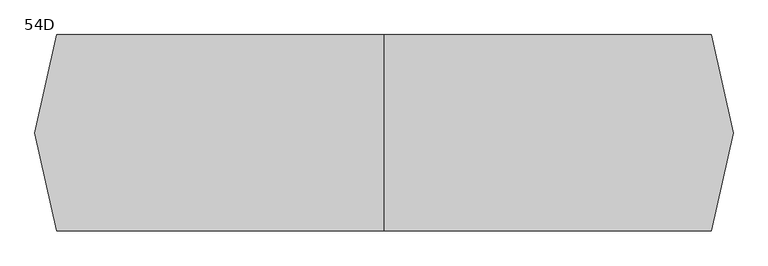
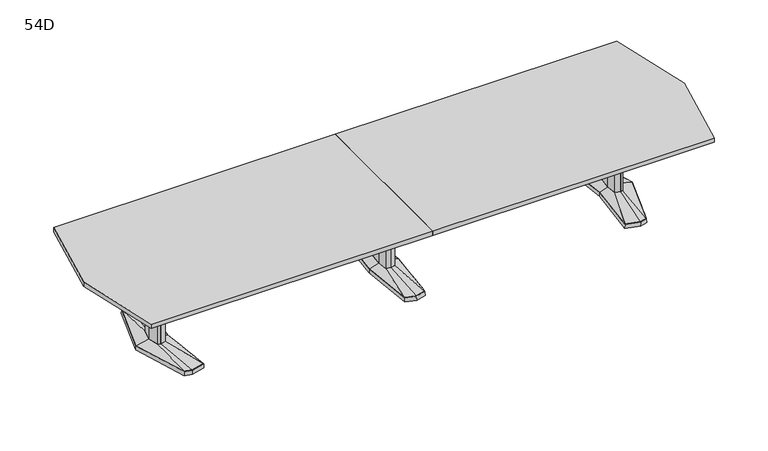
"""IFC4 building model written with IfcOpenShell, lengths in millimetres: furniture geometry, Coalesse_AM_Table_Conference_ETable2_Faceted_16ft_AluminiumBase : 54D."""

from ifc_helpers import new_model, si_unit, frame, origin, place, context, project, spatial, polyline, outline, extrude, faceted_brep, source, transform, mapped, element, save
from ifc_brep_helpers import plane_surface, spline_surface, advanced_brep


def furniture_54d_1e4cc773(model_context):
    return source(origin(), model_context, "Body", "SolidModel", [
        faceted_brep([(-81.2333791, -433.8053819, 38.1), (0.0, -455.556576, 38.1), (81.2333791, -433.8053819, 38.1), (119.0564774, 0.0, 38.1), (81.2333791, 433.8053819, 38.1), (0.0, 455.556576, 38.1), (-81.2333791, 433.8053819, 38.1), (-119.0564774, 0.0, 38.1), (-82.7182795, -435.0512063, 3.175), (-120.65, 0.0, 3.175), (-82.7182795, 435.0512063, 3.175), (0.0, 457.2, 3.175), (82.7182795, 435.0512063, 3.175), (120.65, 0.0, 3.175), (82.7182795, -435.0512063, 3.175), (0.0, -457.2, 3.175), (0.0, 429.2617927, 3.175), (-77.9676806, 408.3850278, 3.175), (-74.7019821, 382.9646737, 3.175), (0.0, 402.9670094, 3.175), (74.7019821, 382.9646737, 3.175), (77.9676806, 408.3850278, 3.175), (0.0, -429.2617927, 3.175), (77.9676806, -408.3850278, 3.175), (74.7019821, -382.9646737, 3.175), (0.0, -402.9670094, 3.175), (-74.7019821, -382.9646737, 3.175), (-77.9676806, -408.3850278, 3.175), (-71.8574262, 114.6326257, 3.175), (-82.5426076, 0.0, 3.175), (-71.8574262, -114.6326257, 3.175), (0.0, -133.8761372, 3.175), (71.8574262, -114.6326257, 3.175), (82.5426076, 0.0, 3.175), (71.8574262, 114.6326257, 3.175), (0.0, 133.8761372, 3.175), (0.0, 429.2617927, 0.0), (77.9676806, 408.3850278, 0.0), (74.7019821, 382.9646737, 0.0), (0.0, 402.9670094, 0.0), (-74.7019821, 382.9646737, 0.0), (-77.9676806, 408.3850278, 0.0), (0.0, -429.2617927, 0.0), (-77.9676806, -408.3850278, 0.0), (-74.7019821, -382.9646737, 0.0), (0.0, -402.9670094, 0.0), (74.7019821, -382.9646737, 0.0), (77.9676806, -408.3850278, 0.0), (-71.8574262, 114.6326257, 0.0), (0.0, 133.8761372, 0.0), (71.8574262, 114.6326257, 0.0), (82.5426076, 0.0, 0.0), (71.8574262, -114.6326257, 0.0), (0.0, -133.8761372, 0.0), (-71.8574262, -114.6326257, 0.0), (-82.5426076, 0.0, 0.0)], [[[0, 1, 2, 3, 4, 5, 6, 7]], [[8, 9, 10, 11, 12, 13, 14, 15], [16, 17, 18, 19, 20, 21], [22, 23, 24, 25, 26, 27], [28, 29, 30, 31, 32, 33, 34, 35]], [[1, 0, 8, 15]], [[2, 1, 15, 14]], [[3, 2, 14, 13]], [[4, 3, 13, 12]], [[5, 4, 12, 11]], [[6, 5, 11, 10]], [[7, 6, 10, 9]], [[0, 7, 9, 8]], [[36, 37, 38, 39, 40, 41]], [[42, 43, 44, 45, 46, 47]], [[48, 49, 50, 51, 52, 53, 54, 55]], [[36, 41, 17, 16]], [[41, 40, 18, 17]], [[40, 39, 19, 18]], [[39, 38, 20, 19]], [[38, 37, 21, 20]], [[37, 36, 16, 21]], [[42, 47, 23, 22]], [[47, 46, 24, 23]], [[46, 45, 25, 24]], [[45, 44, 26, 25]], [[44, 43, 27, 26]], [[43, 42, 22, 27]], [[48, 55, 29, 28]], [[55, 54, 30, 29]], [[54, 53, 31, 30]], [[53, 52, 32, 31]], [[52, 51, 33, 32]], [[51, 50, 34, 33]], [[50, 49, 35, 34]], [[49, 48, 28, 35]]]),
        faceted_brep([(-36.3832834, 84.6900825, 698.5), (-44.2774487, 0.0, 698.5), (-36.3832834, -84.6900825, 698.5), (0.0, -94.4335728, 698.5), (36.3832834, -84.6900825, 698.5), (44.2774487, 0.0, 698.5), (36.3832834, 84.6900825, 698.5), (0.0, 94.4335728, 698.5), (-36.3832834, 84.6900825, 63.5), (0.0, 94.4335728, 63.5), (36.3832834, 84.6900825, 63.5), (44.2774487, 0.0, 63.5), (36.3832834, -84.6900825, 63.5), (0.0, -94.4335728, 63.5), (-36.3832834, -84.6900825, 63.5), (-44.2774487, 0.0, 63.5)], [[[0, 1, 2, 3, 4, 5, 6, 7]], [[8, 9, 10, 11, 12, 13, 14, 15]], [[1, 0, 8, 15]], [[2, 1, 15, 14]], [[3, 2, 14, 13]], [[4, 3, 13, 12]], [[5, 4, 12, 11]], [[6, 5, 11, 10]], [[7, 6, 10, 9]], [[0, 7, 9, 8]]]),
        advanced_brep(
        [(-36.3832834, 84.6900825, 63.5), (-44.2774487, 0.0, 63.5), (-36.3832834, -84.6900825, 63.5), (0.0, -94.4335728, 63.5), (36.3832834, -84.6900825, 63.5), (44.2774487, 0.0, 63.5), (36.3832834, 84.6900825, 63.5), (0.0, 94.4335728, 63.5), (-81.2333791, 433.8053819, 38.1), (0.0, 455.556576, 38.1), (81.2333791, 433.8053819, 38.1), (119.0564774, 0.0, 38.1), (81.2333791, -433.8053819, 38.1), (0.0, -455.556576, 38.1), (-81.2333791, -433.8053819, 38.1), (-119.0564774, 0.0, 38.1)],
        [
            (0, 1),
            (1, 2),
            (2, 3),
            (3, 4),
            (4, 5),
            (5, 6),
            (6, 7),
            (7, 0),
            (8, 9),
            (9, 10),
            (10, 11),
            (11, 12),
            (12, 13),
            (13, 14),
            (14, 15),
            (15, 8),
            (15, 1),
            (0, 8),
            (14, 2),
            (13, 3),
            (12, 4),
            (11, 5),
            (10, 6),
            (9, 7),
        ],
        [
            plane_surface(frame((0.0, 0.0, 63.5), z_axis=(0.0, 0.0, 1.0000000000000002), x_axis=(-0.9659615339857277, -0.25868574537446, 0.0))),
            plane_surface(frame((0.0, 0.0, 38.1), z_axis=(0.0, 0.0, -1.0000000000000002), x_axis=(-0.9659615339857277, -0.25868574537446, 0.0))),
            spline_surface(1, 1, [[(-81.2333791, 433.8053819, 38.1), (-36.3832834, 84.6900825, 63.5)], [(-119.0564774, 0.0, 38.1), (-44.2774487, 0.0, 63.5)]], [2, 2], [2, 2], [0.0, 1.0], [0.0, 1.0]),
            spline_surface(1, 1, [[(-119.0564774, 0.0, 38.1), (-44.2774487, 0.0, 63.5)], [(-81.2333791, -433.8053819, 38.1), (-36.3832834, -84.6900825, 63.5)]], [2, 2], [2, 2], [0.0, 1.0], [0.0, 1.0]),
            spline_surface(1, 1, [[(-81.2333791, -433.8053819, 38.1), (-36.3832834, -84.6900825, 63.5)], [(0.0, -455.556576, 38.1), (0.0, -94.4335728, 63.5)]], [2, 2], [2, 2], [0.0, 1.0], [0.0, 1.0]),
            spline_surface(1, 1, [[(0.0, -455.556576, 38.1), (0.0, -94.4335728, 63.5)], [(81.2333791, -433.8053819, 38.1), (36.3832834, -84.6900825, 63.5)]], [2, 2], [2, 2], [0.0, 1.0], [0.0, 1.0]),
            spline_surface(1, 1, [[(81.2333791, -433.8053819, 38.1), (36.3832834, -84.6900825, 63.5)], [(119.0564774, 0.0, 38.1), (44.2774487, 0.0, 63.5)]], [2, 2], [2, 2], [0.0, 1.0], [0.0, 1.0]),
            spline_surface(1, 1, [[(119.0564774, 0.0, 38.1), (44.2774487, 0.0, 63.5)], [(81.2333791, 433.8053819, 38.1), (36.3832834, 84.6900825, 63.5)]], [2, 2], [2, 2], [0.0, 1.0], [0.0, 1.0]),
            spline_surface(1, 1, [[(81.2333791, 433.8053819, 38.1), (36.3832834, 84.6900825, 63.5)], [(0.0, 455.556576, 38.1), (0.0, 94.4335728, 63.5)]], [2, 2], [2, 2], [0.0, 1.0], [0.0, 1.0]),
            spline_surface(1, 1, [[(0.0, 455.556576, 38.1), (0.0, 94.4335728, 63.5)], [(-81.2333791, 433.8053819, 38.1), (-36.3832834, 84.6900825, 63.5)]], [2, 2], [2, 2], [0.0, 1.0], [0.0, 1.0]),
        ],
        [
            (0, [[1, 2, 3, 4, 5, 6, 7, 8]]),
            (1, [[9, 10, 11, 12, 13, 14, 15, 16]]),
            (2, [[-16, 17, -1, 18]]),
            (3, [[-15, 19, -2, -17]]),
            (4, [[-14, 20, -3, -19]]),
            (5, [[-13, 21, -4, -20]]),
            (6, [[-12, 22, -5, -21]]),
            (7, [[-11, 23, -6, -22]]),
            (8, [[-10, 24, -7, -23]]),
            (9, [[-9, -18, -8, -24]]),
        ],
    ),
        faceted_brep([(1820.2306835, 455.5848221, 38.1), (1710.6531277, 426.2263816, 38.1), (1751.8163717, 0.0, 38.1), (1710.6531277, -426.2263816, 38.1), (1820.2306835, -455.5848221, 38.1), (1876.3570396, -440.5478297, 38.1), (2013.6684269, 0.0, 38.1), (1876.3570396, 440.5478297, 38.1), (1820.2306754, 457.2283104, 3.175), (1877.6124472, 441.8549756, 3.175), (2015.33125, 0.0, 3.175), (1877.6124472, -441.8549756, 3.175), (1820.2306754, -457.2283104, 3.175), (1708.94375, -427.4118891, 3.175), (1750.2214856, 0.0, 3.175), (1708.94375, 427.4118891, 3.175), (1823.820115, 428.3273875, 3.175), (1718.7718228, 402.1057253, 3.175), (1726.890518, 377.985069, 3.175), (1827.4095466, 401.0699529, 3.175), (1877.9691725, 387.524361, 3.175), (1877.1631061, 414.0360954, 3.175), (1823.820115, -428.3273875, 3.175), (1877.1631061, -414.0360954, 3.175), (1877.9691725, -387.524361, 3.175), (1827.4095466, -401.0699529, 3.175), (1726.890518, -377.985069, 3.175), (1718.7718228, -402.1057253, 3.175), (1950.4153621, 0.0, 3.175), (1918.1459611, 120.4193755, 3.175), (1869.4987222, 133.471665, 3.175), (1789.6180526, 119.4176561, 3.175), (1778.4868466, 0.0, 3.175), (1789.6180526, -119.4176561, 3.175), (1869.4987222, -133.471665, 3.175), (1918.1459611, -120.4193755, 3.175), (1823.820115, 428.3273875, 0.0), (1877.1631061, 414.0360954, 0.0), (1877.9691725, 387.524361, 0.0), (1827.4095466, 401.0699529, 0.0), (1726.890518, 377.985069, 0.0), (1718.7718228, 402.1057253, 0.0), (1823.820115, -428.3273875, 0.0), (1718.7718228, -402.1057253, 0.0), (1726.890518, -377.985069, 0.0), (1827.4095466, -401.0699529, 0.0), (1877.9691725, -387.524361, 0.0), (1877.1631061, -414.0360954, 0.0), (1950.4153621, 0.0, 0.0), (1918.1459611, -120.4193755, 0.0), (1869.4987222, -133.471665, 0.0), (1789.6180526, -119.4176561, 0.0), (1778.4868466, 0.0, 0.0), (1789.6180526, 119.4176561, 0.0), (1869.4987222, 133.471665, 0.0), (1918.1459611, 120.4193755, 0.0)], [[[0, 1, 2, 3, 4, 5, 6, 7]], [[8, 9, 10, 11, 12, 13, 14, 15], [16, 17, 18, 19, 20, 21], [22, 23, 24, 25, 26, 27], [28, 29, 30, 31, 32, 33, 34, 35]], [[7, 9, 8, 0]], [[6, 10, 9, 7]], [[5, 11, 10, 6]], [[4, 12, 11, 5]], [[3, 13, 12, 4]], [[2, 14, 13, 3]], [[1, 15, 14, 2]], [[0, 8, 15, 1]], [[36, 37, 38, 39, 40, 41]], [[42, 43, 44, 45, 46, 47]], [[48, 49, 50, 51, 52, 53, 54, 55]], [[36, 16, 21, 37]], [[37, 21, 20, 38]], [[38, 20, 19, 39]], [[39, 19, 18, 40]], [[40, 18, 17, 41]], [[41, 17, 16, 36]], [[42, 22, 27, 43]], [[43, 27, 26, 44]], [[44, 26, 25, 45]], [[45, 25, 24, 46]], [[46, 24, 23, 47]], [[47, 23, 22, 42]], [[48, 28, 35, 49]], [[49, 35, 34, 50]], [[50, 34, 33, 51]], [[51, 33, 32, 52]], [[52, 32, 31, 53]], [[53, 31, 30, 54]], [[54, 30, 29, 55]], [[55, 29, 28, 48]]]),
        faceted_brep([(1910.9710836, 0.0, 698.5), (1887.0358546, 89.3188359, 698.5), (1870.1824984, 93.8406728, 698.5), (1867.7826511, 94.4845635, 698.5), (1824.855146, 86.9320037, 698.5), (1816.7520056, 0.0, 698.5), (1824.855146, -86.9320037, 698.5), (1867.7826511, -94.4845635, 698.5), (1870.1824984, -93.8406728, 698.5), (1887.0358546, -89.3188359, 698.5), (1910.9710836, 0.0, 63.5), (1887.0358546, -89.3188359, 63.5), (1870.1824984, -93.8406728, 63.5), (1867.7826511, -94.4845635, 63.5), (1824.855146, -86.9320037, 63.5), (1816.7520056, 0.0, 63.5), (1824.855146, 86.9320037, 63.5), (1867.7826511, 94.4845635, 63.5), (1870.1824984, 93.8406728, 63.5), (1887.0358546, 89.3188359, 63.5)], [[[0, 1, 2, 3, 4, 5, 6, 7, 8, 9]], [[10, 11, 12, 13, 14, 15, 16, 17, 18, 19]], [[9, 11, 10, 0]], [[8, 12, 11, 9]], [[7, 13, 12, 8]], [[6, 14, 13, 7]], [[5, 15, 14, 6]], [[4, 16, 15, 5]], [[3, 17, 16, 4]], [[2, 18, 17, 3]], [[1, 19, 18, 2]], [[0, 10, 19, 1]]]),
        advanced_brep(
        [(1867.7826511, 94.4845635, 63.5), (1824.855146, 86.9320037, 63.5), (1816.7520056, 0.0, 63.5), (1824.855146, -86.9320037, 63.5), (1867.7826511, -94.4845635, 63.5), (1887.0358546, -89.3188359, 63.5), (1910.9710836, 0.0, 63.5), (1887.0358546, 89.3188359, 63.5), (1820.2306835, 455.5848221, 38.1), (1876.3570396, 440.5478297, 38.1), (2013.6684269, 0.0, 38.1), (1876.3570396, -440.5478297, 38.1), (1820.2306835, -455.5848221, 38.1), (1710.6531277, -426.2263816, 38.1), (1751.8163717, 0.0, 38.1), (1710.6531277, 426.2263816, 38.1)],
        [
            (0, 1),
            (1, 2),
            (2, 3),
            (3, 4),
            (4, 5),
            (5, 6),
            (6, 7),
            (7, 0),
            (8, 9),
            (9, 10),
            (10, 11),
            (11, 12),
            (12, 13),
            (13, 14),
            (14, 15),
            (15, 8),
            (8, 0),
            (7, 9),
            (6, 10),
            (5, 11),
            (4, 12),
            (3, 13),
            (2, 14),
            (1, 15),
        ],
        [
            plane_surface(frame((1860.8837991, 0.0, 63.5), z_axis=(0.0, 0.0, 1.0), x_axis=(-0.25884244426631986, -0.9659195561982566, 0.0))),
            plane_surface(frame((1822.4958125, 0.0, 38.1), z_axis=(0.0, 0.0, -1.0), x_axis=(-0.25884244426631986, -0.9659195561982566, 0.0))),
            spline_surface(1, 1, [[(1820.2306835, 455.5848221, 38.1), (1876.3570396, 440.5478297, 38.1)], [(1867.7826511, 94.4845635, 63.5), (1887.0358546, 89.3188359, 63.5)]], [2, 2], [2, 2], [0.0, 1.0], [0.0, 1.0]),
            spline_surface(1, 1, [[(1876.3570396, 440.5478297, 38.1), (2013.6684269, 0.0, 38.1)], [(1887.0358546, 89.3188359, 63.5), (1910.9710836, 0.0, 63.5)]], [2, 2], [2, 2], [0.0, 1.0], [0.0, 1.0]),
            spline_surface(1, 1, [[(2013.6684269, 0.0, 38.1), (1876.3570396, -440.5478297, 38.1)], [(1910.9710836, 0.0, 63.5), (1887.0358546, -89.3188359, 63.5)]], [2, 2], [2, 2], [0.0, 1.0], [0.0, 1.0]),
            spline_surface(1, 1, [[(1876.3570396, -440.5478297, 38.1), (1820.2306835, -455.5848221, 38.1)], [(1887.0358546, -89.3188359, 63.5), (1867.7826511, -94.4845635, 63.5)]], [2, 2], [2, 2], [0.0, 1.0], [0.0, 1.0]),
            spline_surface(1, 1, [[(1820.2306835, -455.5848221, 38.1), (1710.6531277, -426.2263816, 38.1)], [(1867.7826511, -94.4845635, 63.5), (1824.855146, -86.9320037, 63.5)]], [2, 2], [2, 2], [0.0, 1.0], [0.0, 1.0]),
            spline_surface(1, 1, [[(1710.6531277, -426.2263816, 38.1), (1751.8163717, 0.0, 38.1)], [(1824.855146, -86.9320037, 63.5), (1816.7520056, 0.0, 63.5)]], [2, 2], [2, 2], [0.0, 1.0], [0.0, 1.0]),
            spline_surface(1, 1, [[(1751.8163717, 0.0, 38.1), (1710.6531277, 426.2263816, 38.1)], [(1816.7520056, 0.0, 63.5), (1824.855146, 86.9320037, 63.5)]], [2, 2], [2, 2], [0.0, 1.0], [0.0, 1.0]),
            spline_surface(1, 1, [[(1710.6531277, 426.2263816, 38.1), (1820.2306835, 455.5848221, 38.1)], [(1824.855146, 86.9320037, 63.5), (1867.7826511, 94.4845635, 63.5)]], [2, 2], [2, 2], [0.0, 1.0], [0.0, 1.0]),
        ],
        [
            (0, [[1, 2, 3, 4, 5, 6, 7, 8]]),
            (1, [[9, 10, 11, 12, 13, 14, 15, 16]]),
            (2, [[17, -8, 18, -9]]),
            (3, [[-18, -7, 19, -10]]),
            (4, [[-19, -6, 20, -11]]),
            (5, [[-20, -5, 21, -12]]),
            (6, [[-21, -4, 22, -13]]),
            (7, [[-22, -3, 23, -14]]),
            (8, [[-23, -2, 24, -15]]),
            (9, [[-24, -1, -17, -16]]),
        ],
    ),
        faceted_brep([(-1820.2306835, 455.5848221, 38.1), (-1876.3570396, 440.5478297, 38.1), (-2013.6684269, 0.0, 38.1), (-1876.3570396, -440.5478297, 38.1), (-1820.2306835, -455.5848221, 38.1), (-1710.6531277, -426.2263816, 38.1), (-1751.8163717, 0.0, 38.1), (-1710.6531277, 426.2263816, 38.1), (-1820.2306754, 457.2283104, 3.175), (-1708.94375, 427.4118891, 3.175), (-1750.2214856, 0.0, 3.175), (-1708.94375, -427.4118891, 3.175), (-1820.2306754, -457.2283104, 3.175), (-1877.6124472, -441.8549756, 3.175), (-2015.33125, 0.0, 3.175), (-1877.6124472, 441.8549756, 3.175), (-1823.820115, 428.3273875, 3.175), (-1877.1631061, 414.0360954, 3.175), (-1877.9691725, 387.524361, 3.175), (-1827.4095466, 401.0699529, 3.175), (-1726.890518, 377.985069, 3.175), (-1718.7718228, 402.1057253, 3.175), (-1823.820115, -428.3273875, 3.175), (-1718.7718228, -402.1057253, 3.175), (-1726.890518, -377.985069, 3.175), (-1827.4095466, -401.0699529, 3.175), (-1877.9691725, -387.524361, 3.175), (-1877.1631061, -414.0360954, 3.175), (-1950.4153621, 0.0, 3.175), (-1918.1459611, -120.4193755, 3.175), (-1869.4987222, -133.471665, 3.175), (-1789.6180526, -119.4176561, 3.175), (-1778.4868466, 0.0, 3.175), (-1789.6180526, 119.4176561, 3.175), (-1869.4987222, 133.471665, 3.175), (-1918.1459611, 120.4193755, 3.175), (-1823.820115, 428.3273875, 0.0), (-1718.7718228, 402.1057253, 0.0), (-1726.890518, 377.985069, 0.0), (-1827.4095466, 401.0699529, 0.0), (-1877.9691725, 387.524361, 0.0), (-1877.1631061, 414.0360954, 0.0), (-1823.820115, -428.3273875, 0.0), (-1877.1631061, -414.0360954, 0.0), (-1877.9691725, -387.524361, 0.0), (-1827.4095466, -401.0699529, 0.0), (-1726.890518, -377.985069, 0.0), (-1718.7718228, -402.1057253, 0.0), (-1950.4153621, 0.0, 0.0), (-1918.1459611, 120.4193755, 0.0), (-1869.4987222, 133.471665, 0.0), (-1789.6180526, 119.4176561, 0.0), (-1778.4868466, 0.0, 0.0), (-1789.6180526, -119.4176561, 0.0), (-1869.4987222, -133.471665, 0.0), (-1918.1459611, -120.4193755, 0.0)], [[[0, 1, 2, 3, 4, 5, 6, 7]], [[8, 9, 10, 11, 12, 13, 14, 15], [16, 17, 18, 19, 20, 21], [22, 23, 24, 25, 26, 27], [28, 29, 30, 31, 32, 33, 34, 35]], [[1, 0, 8, 15]], [[2, 1, 15, 14]], [[3, 2, 14, 13]], [[4, 3, 13, 12]], [[5, 4, 12, 11]], [[6, 5, 11, 10]], [[7, 6, 10, 9]], [[0, 7, 9, 8]], [[36, 37, 38, 39, 40, 41]], [[42, 43, 44, 45, 46, 47]], [[48, 49, 50, 51, 52, 53, 54, 55]], [[36, 41, 17, 16]], [[41, 40, 18, 17]], [[40, 39, 19, 18]], [[39, 38, 20, 19]], [[38, 37, 21, 20]], [[37, 36, 16, 21]], [[42, 47, 23, 22]], [[47, 46, 24, 23]], [[46, 45, 25, 24]], [[45, 44, 26, 25]], [[44, 43, 27, 26]], [[43, 42, 22, 27]], [[48, 55, 29, 28]], [[55, 54, 30, 29]], [[54, 53, 31, 30]], [[53, 52, 32, 31]], [[52, 51, 33, 32]], [[51, 50, 34, 33]], [[50, 49, 35, 34]], [[49, 48, 28, 35]]]),
        faceted_brep([(-1910.9710836, 0.0, 698.5), (-1887.0358546, -89.3188359, 698.5), (-1870.1824984, -93.8406728, 698.5), (-1867.7826511, -94.4845635, 698.5), (-1824.855146, -86.9320037, 698.5), (-1816.7520056, 0.0, 698.5), (-1824.855146, 86.9320037, 698.5), (-1867.7826511, 94.4845635, 698.5), (-1870.1824984, 93.8406728, 698.5), (-1887.0358546, 89.3188359, 698.5), (-1910.9710836, 0.0, 63.5), (-1887.0358546, 89.3188359, 63.5), (-1870.1824984, 93.8406728, 63.5), (-1867.7826511, 94.4845635, 63.5), (-1824.855146, 86.9320037, 63.5), (-1816.7520056, 0.0, 63.5), (-1824.855146, -86.9320037, 63.5), (-1867.7826511, -94.4845635, 63.5), (-1870.1824984, -93.8406728, 63.5), (-1887.0358546, -89.3188359, 63.5)], [[[0, 1, 2, 3, 4, 5, 6, 7, 8, 9]], [[10, 11, 12, 13, 14, 15, 16, 17, 18, 19]], [[1, 0, 10, 19]], [[2, 1, 19, 18]], [[3, 2, 18, 17]], [[4, 3, 17, 16]], [[5, 4, 16, 15]], [[6, 5, 15, 14]], [[7, 6, 14, 13]], [[8, 7, 13, 12]], [[9, 8, 12, 11]], [[0, 9, 11, 10]]]),
        advanced_brep(
        [(-1867.7826511, 94.4845635, 63.5), (-1887.0358546, 89.3188359, 63.5), (-1910.9710836, 0.0, 63.5), (-1887.0358546, -89.3188359, 63.5), (-1867.7826511, -94.4845635, 63.5), (-1824.855146, -86.9320037, 63.5), (-1816.7520056, 0.0, 63.5), (-1824.855146, 86.9320037, 63.5), (-1820.2306835, 455.5848221, 38.1), (-1710.6531277, 426.2263816, 38.1), (-1751.8163717, 0.0, 38.1), (-1710.6531277, -426.2263816, 38.1), (-1820.2306835, -455.5848221, 38.1), (-1876.3570396, -440.5478297, 38.1), (-2013.6684269, 0.0, 38.1), (-1876.3570396, 440.5478297, 38.1)],
        [
            (0, 1),
            (1, 2),
            (2, 3),
            (3, 4),
            (4, 5),
            (5, 6),
            (6, 7),
            (7, 0),
            (8, 9),
            (9, 10),
            (10, 11),
            (11, 12),
            (12, 13),
            (13, 14),
            (14, 15),
            (15, 8),
            (15, 1),
            (0, 8),
            (14, 2),
            (13, 3),
            (12, 4),
            (11, 5),
            (10, 6),
            (9, 7),
        ],
        [
            plane_surface(frame((-1860.8837991, 0.0, 63.5), z_axis=(0.0, 0.0, 1.0), x_axis=(0.25884244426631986, -0.9659195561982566, 0.0))),
            plane_surface(frame((-1822.4958125, 0.0, 38.1), z_axis=(0.0, 0.0, -1.0), x_axis=(0.25884244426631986, -0.9659195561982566, 0.0))),
            spline_surface(1, 1, [[(-1820.2306835, 455.5848221, 38.1), (-1867.7826511, 94.4845635, 63.5)], [(-1876.3570396, 440.5478297, 38.1), (-1887.0358546, 89.3188359, 63.5)]], [2, 2], [2, 2], [0.0, 1.0], [0.0, 1.0]),
            spline_surface(1, 1, [[(-1876.3570396, 440.5478297, 38.1), (-1887.0358546, 89.3188359, 63.5)], [(-2013.6684269, 0.0, 38.1), (-1910.9710836, 0.0, 63.5)]], [2, 2], [2, 2], [0.0, 1.0], [0.0, 1.0]),
            spline_surface(1, 1, [[(-2013.6684269, 0.0, 38.1), (-1910.9710836, 0.0, 63.5)], [(-1876.3570396, -440.5478297, 38.1), (-1887.0358546, -89.3188359, 63.5)]], [2, 2], [2, 2], [0.0, 1.0], [0.0, 1.0]),
            spline_surface(1, 1, [[(-1876.3570396, -440.5478297, 38.1), (-1887.0358546, -89.3188359, 63.5)], [(-1820.2306835, -455.5848221, 38.1), (-1867.7826511, -94.4845635, 63.5)]], [2, 2], [2, 2], [0.0, 1.0], [0.0, 1.0]),
            spline_surface(1, 1, [[(-1820.2306835, -455.5848221, 38.1), (-1867.7826511, -94.4845635, 63.5)], [(-1710.6531277, -426.2263816, 38.1), (-1824.855146, -86.9320037, 63.5)]], [2, 2], [2, 2], [0.0, 1.0], [0.0, 1.0]),
            spline_surface(1, 1, [[(-1710.6531277, -426.2263816, 38.1), (-1824.855146, -86.9320037, 63.5)], [(-1751.8163717, 0.0, 38.1), (-1816.7520056, 0.0, 63.5)]], [2, 2], [2, 2], [0.0, 1.0], [0.0, 1.0]),
            spline_surface(1, 1, [[(-1751.8163717, 0.0, 38.1), (-1816.7520056, 0.0, 63.5)], [(-1710.6531277, 426.2263816, 38.1), (-1824.855146, 86.9320037, 63.5)]], [2, 2], [2, 2], [0.0, 1.0], [0.0, 1.0]),
            spline_surface(1, 1, [[(-1710.6531277, 426.2263816, 38.1), (-1824.855146, 86.9320037, 63.5)], [(-1820.2306835, 455.5848221, 38.1), (-1867.7826511, 94.4845635, 63.5)]], [2, 2], [2, 2], [0.0, 1.0], [0.0, 1.0]),
        ],
        [
            (0, [[1, 2, 3, 4, 5, 6, 7, 8]]),
            (1, [[9, 10, 11, 12, 13, 14, 15, 16]]),
            (2, [[-16, 17, -1, 18]]),
            (3, [[-15, 19, -2, -17]]),
            (4, [[-14, 20, -3, -19]]),
            (5, [[-13, 21, -4, -20]]),
            (6, [[-12, 22, -5, -21]]),
            (7, [[-11, 23, -6, -22]]),
            (8, [[-10, 24, -7, -23]]),
            (9, [[-9, -18, -8, -24]]),
        ],
    ),
        extrude(outline(polyline([(96.8375, 698.5), (103.1875, 698.5), (103.1875, 476.25), (-103.1875, 476.25), (-103.1875, 698.5), (-96.8375, 698.5), (-96.8375, 482.6), (96.8375, 482.6), (96.8375, 698.5)])), frame((44.2774487, 0.0, 0.0), z_axis=(1.0, 0.0, 0.0), x_axis=(0.0, 1.0, 0.0)), (0.0, 0.0, 1.0), 1772.6163013),
        extrude(outline(polyline([(2286.3609518, 685.8), (2438.4, 0.0), (2286.3609518, -685.8), (0.0, -685.8), (0.0, 685.8), (2286.3609518, 685.8)])), frame((0.0, 0.0, 698.5), z_axis=(0.0, 0.0, 1.0), x_axis=(1.0, 0.0, 0.0)), (0.0, 0.0, 1.0), 38.1),
        extrude(outline(polyline([(0.0, 685.8), (0.0, -685.8), (-2286.3609518, -685.8), (-2438.4, 0.0), (-2286.3609518, 685.8), (0.0, 685.8)])), frame((0.0, 0.0, 698.5), z_axis=(0.0, 0.0, 1.0), x_axis=(1.0, 0.0, 0.0)), (0.0, 0.0, 1.0), 38.1),
        extrude(outline(polyline([(96.8375, 698.5), (103.1875, 698.5), (103.1875, 476.25), (-103.1875, 476.25), (-103.1875, 698.5), (-96.8375, 698.5), (-96.8375, 482.6), (96.8375, 482.6), (96.8375, 698.5)])), frame((-1816.89375, 0.0, 0.0), z_axis=(1.0, 0.0, 0.0), x_axis=(0.0, 1.0, 0.0)), (0.0, 0.0, 1.0), 1772.6163013),
    ])


if __name__ == "__main__":
    model = new_model("IFC4")
    model_context = context("Model", 3, world=origin())
    ifc_project = project(units=[si_unit("LENGTHUNIT", "METRE", prefix="MILLI")], contexts=[model_context])
    site = spatial("IfcSite", under=ifc_project)
    building = spatial("IfcBuilding", under=site)
    placement = place(None, origin())
    furniture_54d_shape = furniture_54d_1e4cc773(model_context)
    element("IfcFurniture", 1, ObjectType="Coalesse_AM_Table_Conference_ETable2_Faceted_16ft_AluminiumBase : 54D", at=placement, inside=building, context=model_context, shape_type="MappedRepresentation", body=[
        mapped(furniture_54d_shape, transform((0.0, 0.0, 0.0), x_axis=(1.0, 0.0, 0.0), y_axis=(0.0, 1.0, 0.0), z_axis=(0.0, 0.0, 1.0))),
    ])
    save(model, "model.ifc")
